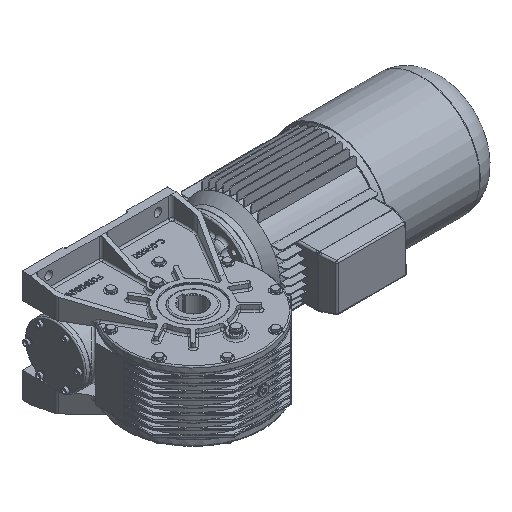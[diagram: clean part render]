
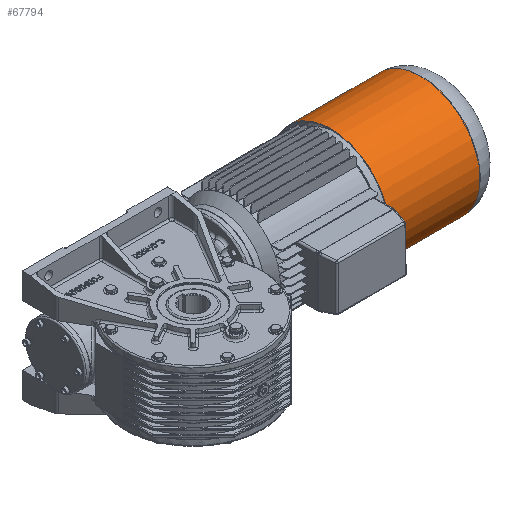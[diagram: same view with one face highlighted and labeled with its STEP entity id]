
A CAD part, isometric view. The second image highlights one B-rep face of the part: STEP entity #67794.
In plain terms, the highlighted cylindrical face has radius 137.5 mm (diameter 275 mm), a full revolution.
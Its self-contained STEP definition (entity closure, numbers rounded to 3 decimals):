
#67651=CARTESIAN_POINT('',(562.0,137.5,0.0));
#67652=VERTEX_POINT('',#67651);
#67653=CARTESIAN_POINT('',(562.0,0.0,0.0));
#67654=DIRECTION('',(1.0,0.0,0.0));
#67655=DIRECTION('',(0.0,1.0,0.0));
#67656=AXIS2_PLACEMENT_3D('',#67653,#67654,#67655);
#67657=CIRCLE('',#67656,137.5);
#67658=EDGE_CURVE('',#67652,#67652,#67657,.T.);
#67768=CARTESIAN_POINT('',(350.0,137.5,0.0));
#67769=VERTEX_POINT('',#67768);
#67770=CARTESIAN_POINT('',(350.0,0.0,0.0));
#67771=DIRECTION('',(1.0,0.0,0.0));
#67772=DIRECTION('',(0.0,1.0,0.0));
#67773=AXIS2_PLACEMENT_3D('',#67770,#67771,#67772);
#67774=CIRCLE('',#67773,137.5);
#67775=EDGE_CURVE('',#67769,#67769,#67774,.T.);
#67783=CARTESIAN_POINT('',(456.0,0.0,0.0));
#67784=DIRECTION('',(1.0,0.0,0.0));
#67785=DIRECTION('',(0.0,1.0,0.0));
#67786=AXIS2_PLACEMENT_3D('',#67783,#67784,#67785);
#67787=CYLINDRICAL_SURFACE('',#67786,137.5);
#67788=ORIENTED_EDGE('',*,*,#67658,.F.);
#67789=EDGE_LOOP('',(#67788));
#67790=FACE_OUTER_BOUND('',#67789,.T.);
#67791=ORIENTED_EDGE('',*,*,#67775,.T.);
#67792=EDGE_LOOP('',(#67791));
#67793=FACE_BOUND('',#67792,.T.);
#67794=ADVANCED_FACE('',(#67790,#67793),#67787,.T.);
